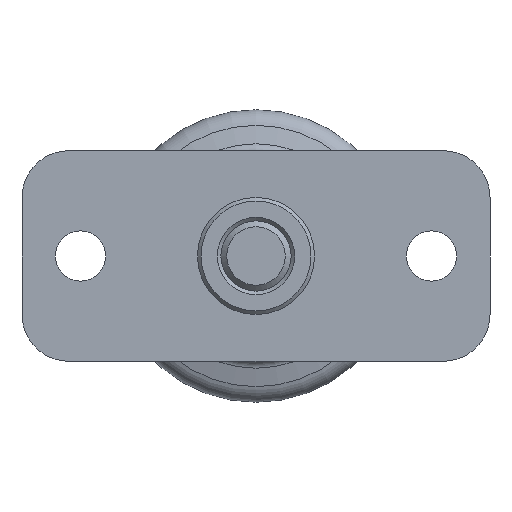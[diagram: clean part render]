
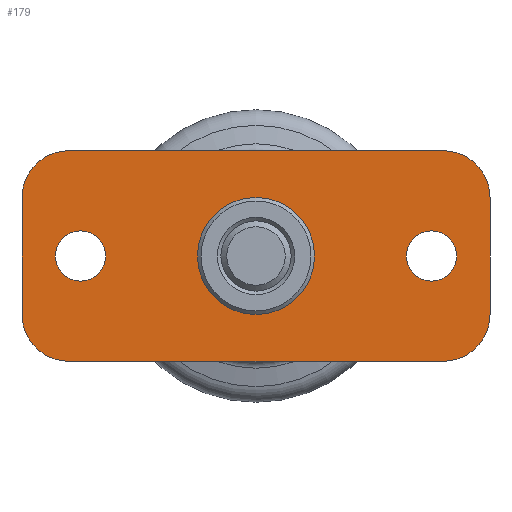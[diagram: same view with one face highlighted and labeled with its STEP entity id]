
A CAD part, front view. The second image highlights one B-rep face of the part: STEP entity #179.
In plain terms, the highlighted planar face has unit normal (0, -1, 0).
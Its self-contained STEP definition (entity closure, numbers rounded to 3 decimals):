
#179 = ADVANCED_FACE( '', ( #249, #250, #251, #252 ), #253, .F. );
#249 = FACE_BOUND( '', #392, .T. );
#250 = FACE_BOUND( '', #393, .T. );
#251 = FACE_BOUND( '', #394, .T. );
#252 = FACE_OUTER_BOUND( '', #395, .T. );
#253 = PLANE( '', #396 );
#392 = EDGE_LOOP( '', ( #582 ) );
#393 = EDGE_LOOP( '', ( #583 ) );
#394 = EDGE_LOOP( '', ( #584 ) );
#395 = EDGE_LOOP( '', ( #585, #586, #587, #588, #589, #590, #591, #592 ) );
#396 = AXIS2_PLACEMENT_3D( '', #593, #594, #595 );
#582 = ORIENTED_EDGE( '', *, *, #878, .F. );
#583 = ORIENTED_EDGE( '', *, *, #876, .F. );
#584 = ORIENTED_EDGE( '', *, *, #895, .F. );
#585 = ORIENTED_EDGE( '', *, *, #886, .F. );
#586 = ORIENTED_EDGE( '', *, *, #896, .F. );
#587 = ORIENTED_EDGE( '', *, *, #897, .F. );
#588 = ORIENTED_EDGE( '', *, *, #898, .F. );
#589 = ORIENTED_EDGE( '', *, *, #899, .F. );
#590 = ORIENTED_EDGE( '', *, *, #900, .F. );
#591 = ORIENTED_EDGE( '', *, *, #901, .F. );
#592 = ORIENTED_EDGE( '', *, *, #902, .F. );
#593 = CARTESIAN_POINT( '', ( -16., 0., 5. ) );
#594 = DIRECTION( '', ( 0., 1., 0. ) );
#595 = DIRECTION( '', ( 0., 0., 1. ) );
#876 = EDGE_CURVE( '', #982, #982, #983, .T. );
#878 = EDGE_CURVE( '', #986, #986, #987, .T. );
#886 = EDGE_CURVE( '', #1002, #1003, #1004, .T. );
#895 = EDGE_CURVE( '', #1017, #1017, #1018, .T. );
#896 = EDGE_CURVE( '', #1019, #1002, #1020, .T. );
#897 = EDGE_CURVE( '', #1021, #1019, #1022, .T. );
#898 = EDGE_CURVE( '', #1023, #1021, #1024, .T. );
#899 = EDGE_CURVE( '', #1025, #1023, #1026, .T. );
#900 = EDGE_CURVE( '', #1027, #1025, #1028, .T. );
#901 = EDGE_CURVE( '', #1029, #1027, #1030, .T. );
#902 = EDGE_CURVE( '', #1003, #1029, #1031, .T. );
#982 = VERTEX_POINT( '', #1222 );
#983 = CIRCLE( '', #1223, 2.15 );
#986 = VERTEX_POINT( '', #1226 );
#987 = CIRCLE( '', #1227, 2.15 );
#1002 = VERTEX_POINT( '', #1245 );
#1003 = VERTEX_POINT( '', #1246 );
#1004 = LINE( '', #1247, #1248 );
#1017 = VERTEX_POINT( '', #1266 );
#1018 = CIRCLE( '', #1267, 5. );
#1019 = VERTEX_POINT( '', #1268 );
#1020 = CIRCLE( '', #1269, 4. );
#1021 = VERTEX_POINT( '', #1270 );
#1022 = LINE( '', #1271, #1272 );
#1023 = VERTEX_POINT( '', #1273 );
#1024 = CIRCLE( '', #1274, 4. );
#1025 = VERTEX_POINT( '', #1275 );
#1026 = LINE( '', #1276, #1277 );
#1027 = VERTEX_POINT( '', #1278 );
#1028 = CIRCLE( '', #1279, 4. );
#1029 = VERTEX_POINT( '', #1280 );
#1030 = LINE( '', #1281, #1282 );
#1031 = CIRCLE( '', #1283, 4. );
#1222 = CARTESIAN_POINT( '', ( -15., 0., -2.15 ) );
#1223 = AXIS2_PLACEMENT_3D( '', #1487, #1488, #1489 );
#1226 = CARTESIAN_POINT( '', ( 15., 0., -2.15 ) );
#1227 = AXIS2_PLACEMENT_3D( '', #1493, #1494, #1495 );
#1245 = CARTESIAN_POINT( '', ( -20., 0., -5. ) );
#1246 = CARTESIAN_POINT( '', ( -20., 0., 5. ) );
#1247 = CARTESIAN_POINT( '', ( -20., 0., -5. ) );
#1248 = VECTOR( '', #1511, 1000. );
#1266 = CARTESIAN_POINT( '', ( 0., 0., -5. ) );
#1267 = AXIS2_PLACEMENT_3D( '', #1526, #1527, #1528 );
#1268 = CARTESIAN_POINT( '', ( -16., 0., -9. ) );
#1269 = AXIS2_PLACEMENT_3D( '', #1529, #1530, #1531 );
#1270 = CARTESIAN_POINT( '', ( 16., 0., -9. ) );
#1271 = CARTESIAN_POINT( '', ( 16., 0., -9. ) );
#1272 = VECTOR( '', #1532, 1000. );
#1273 = CARTESIAN_POINT( '', ( 20., 0., -5. ) );
#1274 = AXIS2_PLACEMENT_3D( '', #1533, #1534, #1535 );
#1275 = CARTESIAN_POINT( '', ( 20., 0., 5. ) );
#1276 = CARTESIAN_POINT( '', ( 20., 0., 5. ) );
#1277 = VECTOR( '', #1536, 1000. );
#1278 = CARTESIAN_POINT( '', ( 16., 0., 9. ) );
#1279 = AXIS2_PLACEMENT_3D( '', #1537, #1538, #1539 );
#1280 = CARTESIAN_POINT( '', ( -16., 0., 9. ) );
#1281 = CARTESIAN_POINT( '', ( -16., 0., 9. ) );
#1282 = VECTOR( '', #1540, 1000. );
#1283 = AXIS2_PLACEMENT_3D( '', #1541, #1542, #1543 );
#1487 = CARTESIAN_POINT( '', ( -15., 0., 0. ) );
#1488 = DIRECTION( '', ( 0., -1., 0. ) );
#1489 = DIRECTION( '', ( 0., 0., -1. ) );
#1493 = CARTESIAN_POINT( '', ( 15., 0., 0. ) );
#1494 = DIRECTION( '', ( 0., -1., 0. ) );
#1495 = DIRECTION( '', ( 0., 0., -1. ) );
#1511 = DIRECTION( '', ( 0., 0., 1. ) );
#1526 = CARTESIAN_POINT( '', ( 0., 0., 0. ) );
#1527 = DIRECTION( '', ( 0., -1., 0. ) );
#1528 = DIRECTION( '', ( 0., 0., -1. ) );
#1529 = CARTESIAN_POINT( '', ( -16., 0., -5. ) );
#1530 = DIRECTION( '', ( 0., 1., 0. ) );
#1531 = DIRECTION( '', ( 1., 0., 0. ) );
#1532 = DIRECTION( '', ( -1., 0., 0. ) );
#1533 = CARTESIAN_POINT( '', ( 16., 0., -5. ) );
#1534 = DIRECTION( '', ( 0., 1., 0. ) );
#1535 = DIRECTION( '', ( 1., 0., 0. ) );
#1536 = DIRECTION( '', ( 0., 0., -1. ) );
#1537 = CARTESIAN_POINT( '', ( 16., 0., 5. ) );
#1538 = DIRECTION( '', ( 0., 1., 0. ) );
#1539 = DIRECTION( '', ( 1., 0., 0. ) );
#1540 = DIRECTION( '', ( 1., 0., 0. ) );
#1541 = CARTESIAN_POINT( '', ( -16., 0., 5. ) );
#1542 = DIRECTION( '', ( 0., 1., 0. ) );
#1543 = DIRECTION( '', ( 1., 0., 0. ) );
